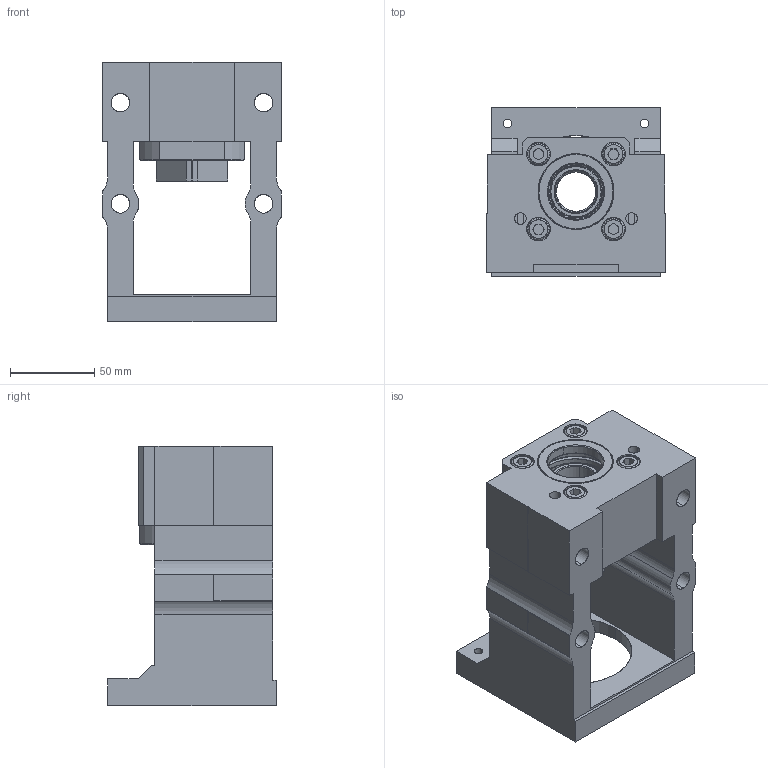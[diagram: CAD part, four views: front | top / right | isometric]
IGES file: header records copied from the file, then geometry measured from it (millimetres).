
Start section: SolidWorks IGES file using analytic representation for surfaces
Bounding box: 106 x 100 x 154 mm (x, y, z)
Surface area: 121098.1 mm2 (no closed solid volume)
Topology: 0 solids, 0 shells, 302 faces, 4240 edges, 4184 vertices
Faces by surface type: revolution 164, bspline 138
